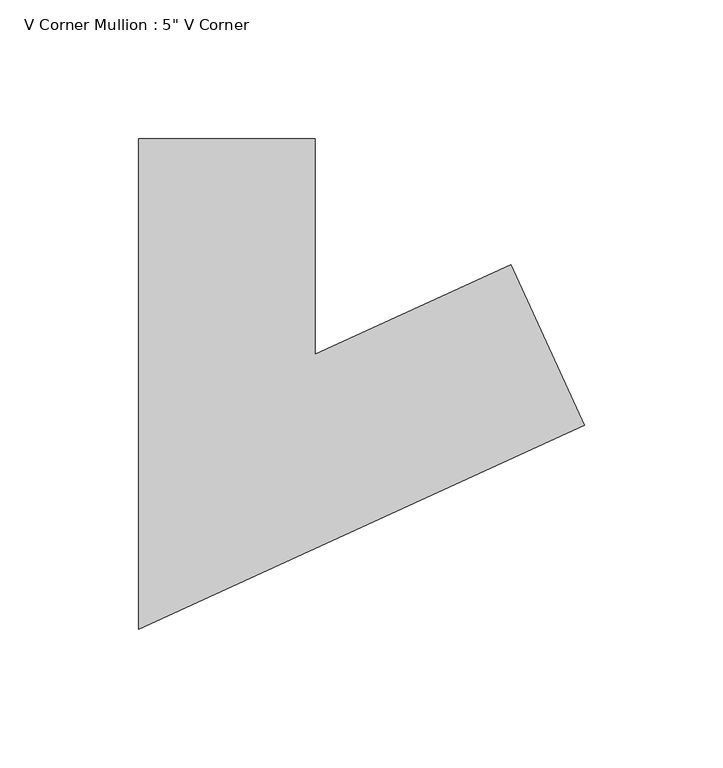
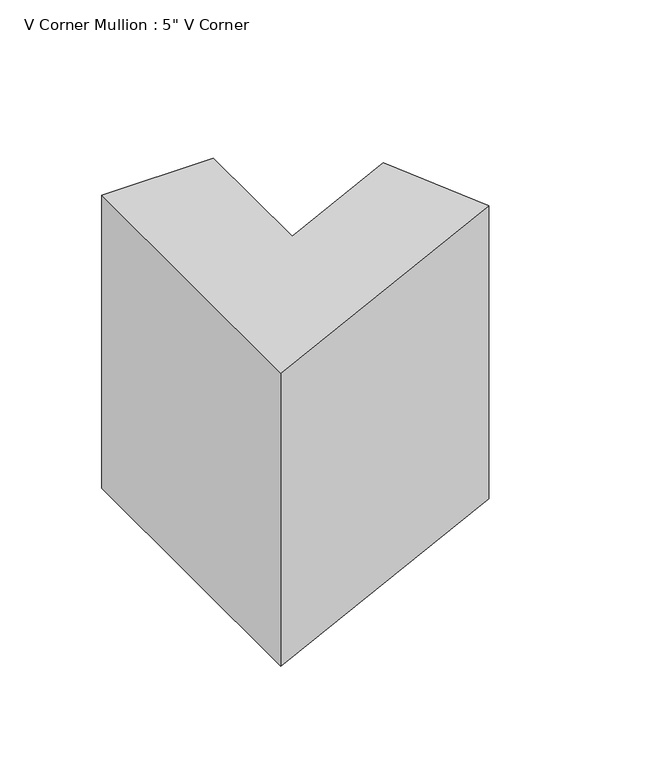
"""IFC4 building model written with IfcOpenShell, lengths in millimetres: member geometry."""

from ifc_helpers import new_model, si_unit, frame, origin, place, context, project, spatial, polyline, outline, extrude, source, transform, mapped, element, save


def member_1e27f70e(model_context):
    return source(origin(), model_context, "Body", "SweptSolid", [
        extrude(outline(polyline([(87.9205542, -39.5195451), (-72.5228811, -112.9476953), (-72.5228811, 63.5), (-9.0228811, 63.5), (-9.0228811, -14.0523047), (61.49523, 18.2208415), (87.9205542, -39.5195451)])), frame((0.0, 0.0, -176.1413959), z_axis=(0.0, 0.0, 1.0), x_axis=(1.0, 0.0, 0.0)), (0.0, 0.0, 1.0), 176.1413959),
    ])


if __name__ == "__main__":
    model = new_model("IFC4")
    model_context = context("Model", 3, world=origin())
    ifc_project = project(units=[si_unit("LENGTHUNIT", "METRE", prefix="MILLI")], contexts=[model_context])
    site = spatial("IfcSite", under=ifc_project)
    building = spatial("IfcBuilding", under=site)
    placement = place(None, origin())
    member_shape = member_1e27f70e(model_context)
    element("IfcMember", 1, ObjectType="V Corner Mullion : 5\" V Corner", at=placement, inside=building, context=model_context, shape_type="MappedRepresentation", body=[
        mapped(member_shape, transform((0.0, 0.0, 0.0), x_axis=(1.0, 0.0, 0.0), y_axis=(0.0, 1.0, 0.0), z_axis=(0.0, 0.0, 1.0))),
    ])
    save(model, "model.ifc")
